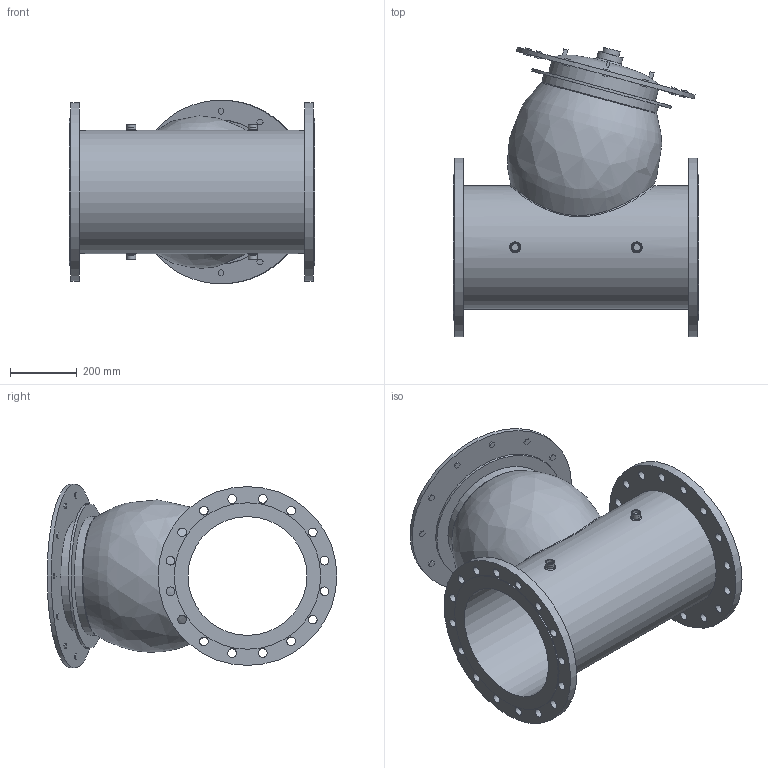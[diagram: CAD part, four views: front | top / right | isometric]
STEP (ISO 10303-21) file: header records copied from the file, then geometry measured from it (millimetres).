
FILE_DESCRIPTION(/* description */ ('VIC FP VALVE PRESSURE RELIEF SERIES 867-7UF (PN16)','CAx-IF Rec.Pracs.---Representation and Presentation of Product Manufacturing Information (PMI)---4.0---2014-10-13'),/* implementation_level */ '2;1');
FILE_NAME(/* name */ 'C:\Series 867-7UF\Series 867-7UF final\pn16\step\Victaulic_FP-Bermad_Valve Pressure Relief_Series 867-7UF (PN16)\Victaulic_FP-Bermad_Valve Pressure Relief_Series 867-7UF (PN16)_14 (350).stp',/* time_stamp */ '2021-09-02T19:17:25+06:00',/* author */ ('kkamble'),/* organization */ ('Victaulic'),/* preprocessor_version */ 'ST-DEVELOPER v17.2',/* originating_system */ 'Autodesk Inventor 2019',/* authorisation */ '');
FILE_SCHEMA (('AP242_MANAGED_MODEL_BASED_3D_ENGINEERING_MIM_LF { 1 0 10303 442 1 1 4 }'));
Length unit declared in the file: inch
Products named in the file (1): 867-7UF-14.0
Bounding box: 733.04 x 866.66 x 550.16 mm (x, y, z)
Volume: 65917891.4 mm3; surface area: 3165641.6 mm2
Topology: 1 solids, 1 shells, 269 faces, 689 edges, 467 vertices
Faces by surface type: plane 208, cylinder 52, bspline 7, torus 2
Full cylindrical faces by diameter (mm): 21.336 x4, 26 x32, 26.873 x4, 50.8 x1, 76.2 x1, 330.2 x1, 355.6 x2, 368.3 x1, 431.8 x1, 438 x2, 534.924 x2, 550.164 x1
Entity records: 9570 total; most frequent: CARTESIAN_POINT 2397, ORIENTED_EDGE 1386, DIRECTION 1346, EDGE_CURVE 693, LINE 520, VECTOR 520, VERTEX_POINT 471, AXIS2_PLACEMENT_3D 413
